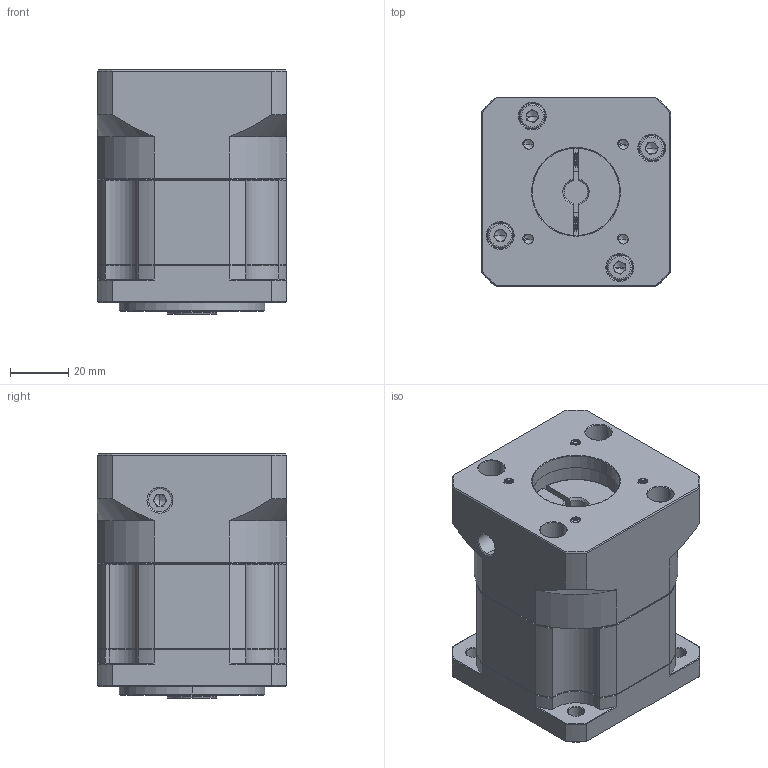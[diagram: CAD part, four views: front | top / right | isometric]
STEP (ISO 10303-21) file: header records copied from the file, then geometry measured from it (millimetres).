
FILE_DESCRIPTION (( 'STEP AP214' ), '1' );
FILE_NAME ('ZB60-K10-L1-8-30-46-M4.STEP', '2022-04-16T15:28:26', ( '' ), ( 'Microsoft' ), 'SwSTEP 2.0', 'SolidWorks 2016', '' );
FILE_SCHEMA (( 'AUTOMOTIVE_DESIGN' ));
Length unit declared in the file: millimetre
Products named in the file (1): ZB60-K10-L1-8-30-46-M4
Bounding box: 65 x 65 x 84 mm (x, y, z)
Volume: 269388.3 mm3; surface area: 53938.2 mm2
Topology: 6 solids, 6 shells, 1823 faces, 4835 edges, 3098 vertices
Faces by surface type: plane 876, cylinder 342, bspline 292, cone 279, torus 34
Entity records: 93041 total; most frequent: CARTESIAN_POINT 29831, ORIENTED_EDGE 9614, DIRECTION 7965, EDGE_CURVE 4807, VERTEX_POINT 3098, LINE 2961, VECTOR 2961, AXIS2_PLACEMENT_3D 2502
